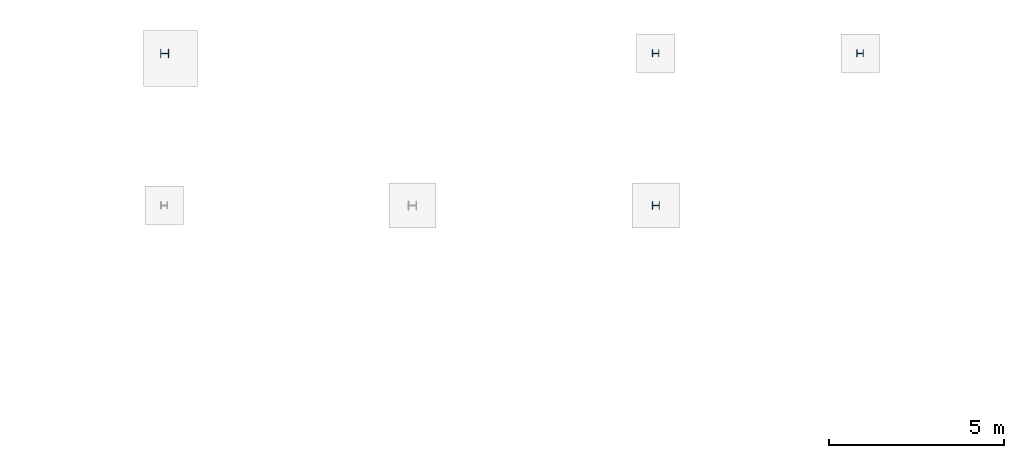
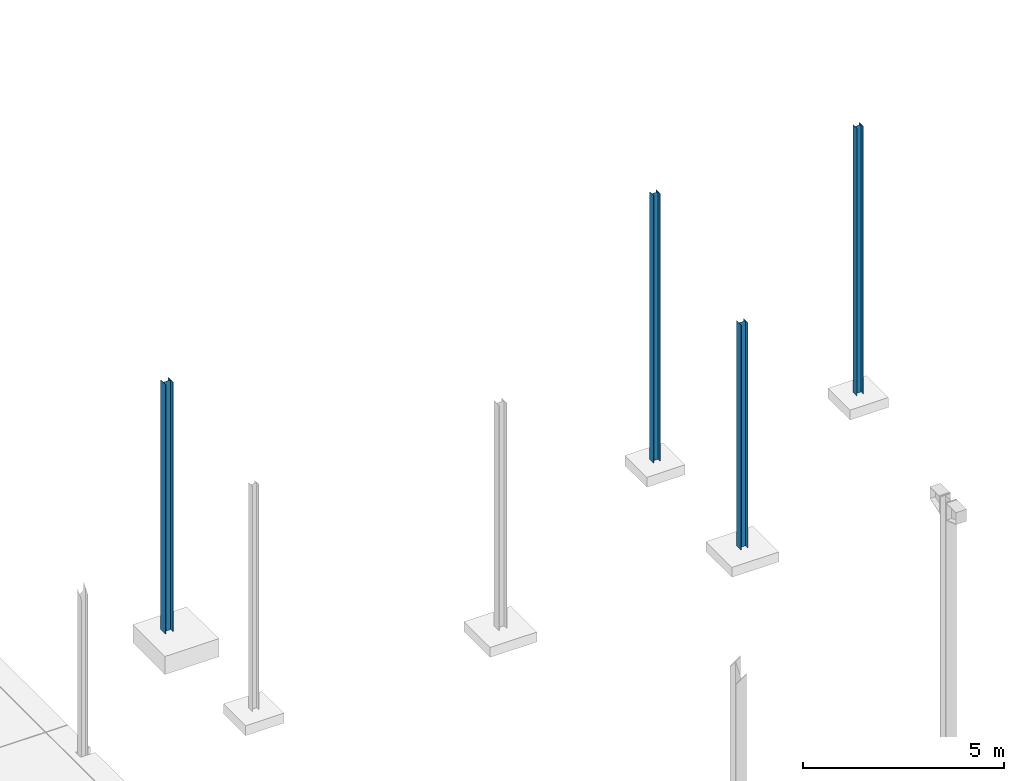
# One storey, part 43 of 59: 4 columns.
"""IFC2X3 building model written with IfcOpenShell, lengths in metres."""

from ifc_helpers import new_model, entity, si_unit, converted_unit, derived_unit, frame, origin, origin_with_axes, place, context, subcontext, project, spatial, polyline, outline, extrude, material, element, save


model = new_model("IFC2X3")

# Units and contexts
model_context = context("Model", 3, precision=1e-05, world=origin())
body_context = subcontext(model_context, "Body", "Model", "MODEL_VIEW")
ifc_project = project(units=[si_unit("LENGTHUNIT", "METRE"), si_unit("AREAUNIT", "SQUARE_METRE"), si_unit("VOLUMEUNIT", "CUBIC_METRE"), si_unit("MASSUNIT", "GRAM", prefix="KILO"), converted_unit("PLANEANGLEUNIT", "DEGREE", entity("IfcPlaneAngleMeasure", 0.0174532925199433), si_unit("PLANEANGLEUNIT", "RADIAN"), dimensions=[0, 0, 0, 0, 0, 0, 0]), derived_unit("THERMALTRANSMITTANCEUNIT", [(si_unit("POWERUNIT", "WATT"), 1), (si_unit("THERMODYNAMICTEMPERATUREUNIT", "KELVIN"), -1), (si_unit("LENGTHUNIT", "METRE"), -2)]), derived_unit("VOLUMETRICFLOWRATEUNIT", [(si_unit("LENGTHUNIT", "METRE"), 3), (converted_unit("TIMEUNIT", "hour", entity("IfcTimeMeasure", 3600.0), si_unit("TIMEUNIT", "SECOND"), dimensions=[0, 0, 1, 0, 0, 0, 0]), -1), (si_unit("LENGTHUNIT", "METRE"), -1)])], contexts=[model_context])

# Site, building, storey
site_placement = place(None, origin())
site = spatial("IfcSite", under=ifc_project, at=site_placement, Name="TWP_Speiseverteilzentrum SBW VZ II", CompositionType="ELEMENT")
building_placement = place(site_placement, origin())
building = spatial("IfcBuilding", under=site, at=building_placement, Name="Speiseverteilzentrum SBW VZ II", CompositionType="ELEMENT")
storey_placement = place(building_placement, frame((0.0, 0.0, 1.7307)))
storey = spatial("IfcBuildingStorey", under=building, at=storey_placement, Name="EG_Produktion_FFB", CompositionType="ELEMENT", Elevation=1.7307)

# Columns
ifc_material_1 = material(Name="S235")
column_1_placement = place(storey_placement, frame((100.430339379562, 85.4500000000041, -1.95)))
element("IfcColumn", 1, at=column_1_placement, inside=storey, material=ifc_material_1, Name="Stahlstütze", context=body_context, shape_type="SweptSolid", body=[
    extrude(outline(polyline([(0.19, 0.0), (0.19, 0.2), (0.18, 0.2), (0.18, 0.10325), (0.01, 0.10325), (0.01, 0.2), (0.0, 0.2), (0.0, 0.0), (0.01, 0.0), (0.01, 0.09675), (0.18, 0.09675), (0.18, 0.0), (0.19, 0.0)])), origin_with_axes(), (0.0, 0.0, 1.0), 8.1393),
])
ifc_material_2 = material(Name="S235")
column_2_placement = place(storey_placement, frame((94.5803393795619, 85.4500000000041, -1.95)))
element("IfcColumn", 2, at=column_2_placement, inside=storey, material=ifc_material_2, Name="Stahlstütze", context=body_context, shape_type="SweptSolid", body=[
    extrude(outline(polyline([(0.19, 0.0), (0.19, 0.2), (0.18, 0.2), (0.18, 0.10325), (0.01, 0.10325), (0.01, 0.2), (0.0, 0.2), (0.0, 0.0), (0.01, 0.0), (0.01, 0.09675), (0.18, 0.09675), (0.18, 0.0), (0.19, 0.0)])), origin_with_axes(), (0.0, 0.0, 1.0), 8.1393),
])
ifc_material_3 = material(Name="S235")
column_3_placement = place(storey_placement, frame((94.5745263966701, 81.0894153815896, -1.95)))
element("IfcColumn", 3, at=column_3_placement, inside=storey, material=ifc_material_3, Name="Stahlstütze", context=body_context, shape_type="SweptSolid", body=[
    extrude(outline(polyline([(0.21, 0.0), (0.21, 0.22), (0.199, 0.22), (0.199, 0.1135), (0.011, 0.1135), (0.011, 0.22), (0.0, 0.22), (0.0, 0.0), (0.011, 0.0), (0.011, 0.1065), (0.199, 0.1065), (0.199, 0.0), (0.21, 0.0)])), origin_with_axes(), (0.0, 0.0, 1.0), 6.85),
])
ifc_material_4 = material(Name="S235")
column_4_placement = place(storey_placement, frame((80.5103393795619, 85.4300000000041, -2.22)))
element("IfcColumn", 4, at=column_4_placement, inside=storey, material=ifc_material_4, Name="Stahlstütze", context=body_context, shape_type="SweptSolid", body=[
    extrude(outline(polyline([(0.23, 0.0), (0.23, 0.24), (0.218, 0.24), (0.218, 0.12375), (0.012, 0.12375), (0.012, 0.24), (0.0, 0.24), (0.0, 0.0), (0.012, 0.0), (0.012, 0.11625), (0.218, 0.11625), (0.218, 0.0), (0.23, 0.0)])), origin_with_axes(), (0.0, 0.0, 1.0), 7.5993),
])

save(model, "model.ifc")
